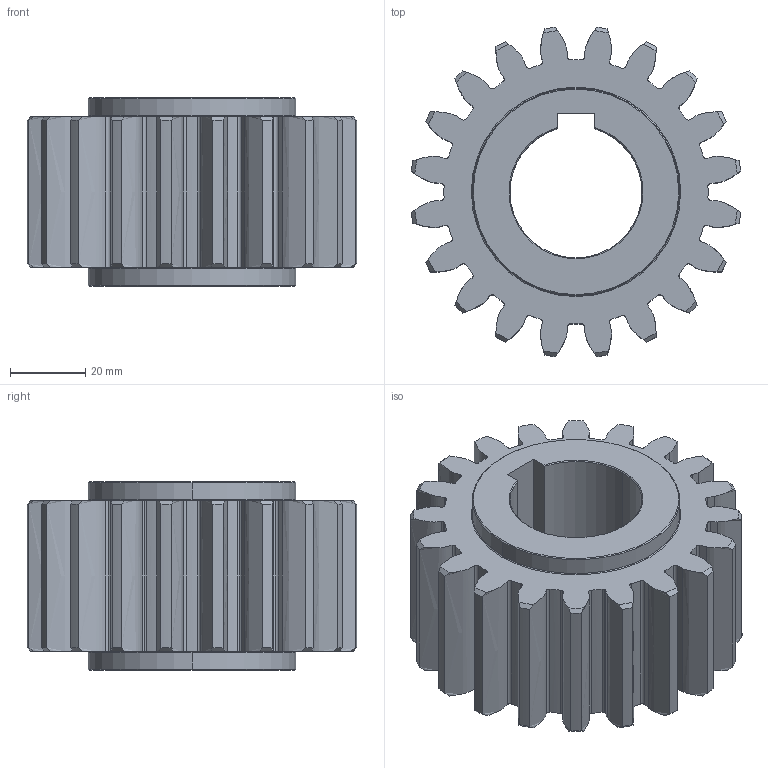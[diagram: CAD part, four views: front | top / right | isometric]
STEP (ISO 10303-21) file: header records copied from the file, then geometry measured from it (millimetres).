
FILE_DESCRIPTION (( 'STEP AP214' ), '1' );
FILE_NAME ('1SG__S040020S.STEP', '2021-08-03T07:49:45', ( '' ), ( '' ), 'SwSTEP 2.0', 'SolidWorks 2021', '' );
FILE_SCHEMA (( 'AUTOMOTIVE_DESIGN' ));
Length unit declared in the file: millimetre
Products named in the file (1): 1SG__S040020S
Bounding box: 87.31 x 87.31 x 50 mm (x, y, z)
Volume: 170099.8 mm3; surface area: 35751.1 mm2
Topology: 1 solids, 1 shells, 218 faces, 670 edges, 456 vertices
Faces by surface type: cylinder 77, bspline 60, cone 50, plane 27, torus 4
Entity records: 13332 total; most frequent: CARTESIAN_POINT 7537, ORIENTED_EDGE 1340, DIRECTION 1076, EDGE_CURVE 670, VERTEX_POINT 456, AXIS2_PLACEMENT_3D 411, VECTOR 254, LINE 254
